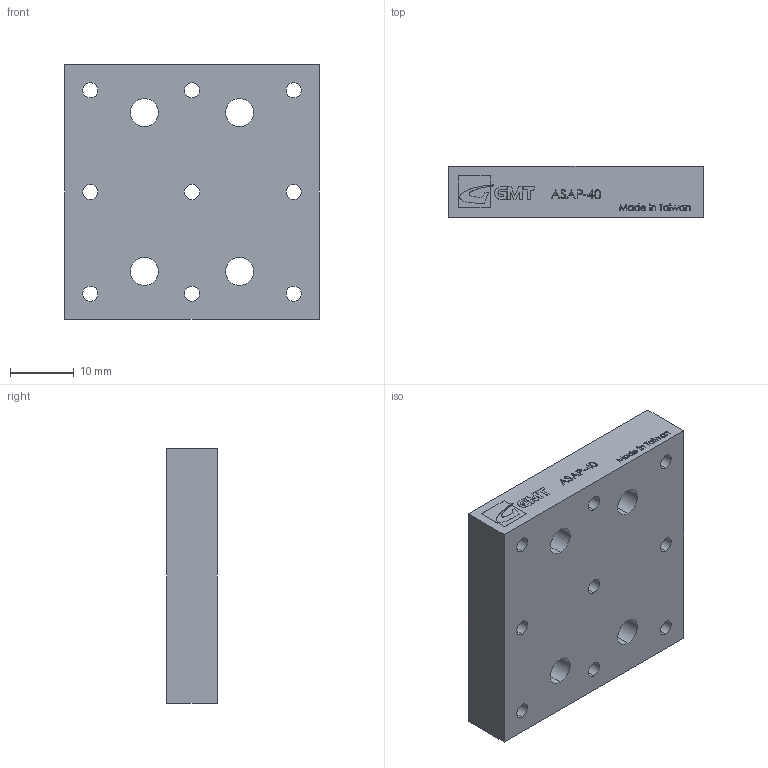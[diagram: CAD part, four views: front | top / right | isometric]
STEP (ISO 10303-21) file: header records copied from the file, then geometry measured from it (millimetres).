
FILE_DESCRIPTION (( 'STEP AP203' ), '1' );
FILE_NAME ('ASAP-40.STEP', '2008-07-17T08:12:14', ( '陳志豪' ), ( '高明鐵企業股份有限公司' ), 'SwSTEP 2.0', 'SolidWorks 2007', '' );
FILE_SCHEMA (( 'CONFIG_CONTROL_DESIGN' ));
Length unit declared in the file: millimetre
Products named in the file (1): ASAP-40
Bounding box: 40 x 8 x 40 mm (x, y, z)
Volume: 11356.1 mm3; surface area: 5468.1 mm2
Topology: 1 solids, 1 shells, 388 faces, 1041 edges, 694 vertices
Faces by surface type: plane 217, bspline 93, cylinder 78
Entity records: 16802 total; most frequent: CARTESIAN_POINT 7425, ORIENTED_EDGE 2082, DIRECTION 1605, EDGE_CURVE 1041, LINE 697, VECTOR 697, VERTEX_POINT 694, AXIS2_PLACEMENT_3D 454
